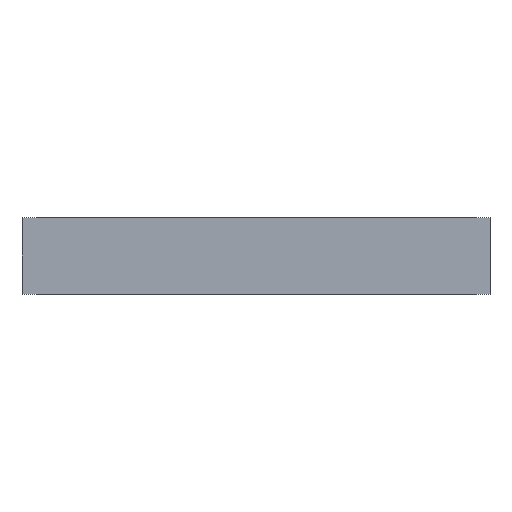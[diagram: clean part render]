
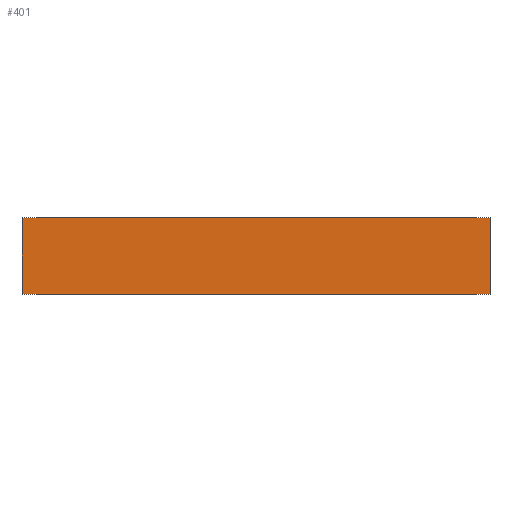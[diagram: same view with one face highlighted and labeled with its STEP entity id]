
A CAD part, front view. The second image highlights one B-rep face of the part: STEP entity #401.
In plain terms, the highlighted planar face has unit normal (0, -1, 0).
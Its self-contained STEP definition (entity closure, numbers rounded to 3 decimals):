
#10 = EDGE_CURVE ( 'NONE', #698, #641, #257, .T. ) ;
#54 = AXIS2_PLACEMENT_3D ( 'NONE', #505, #498, #497 ) ;
#55 = EDGE_CURVE ( 'NONE', #658, #641, #187, .T. ) ;
#57 = EDGE_CURVE ( 'NONE', #685, #698, #179, .T. ) ;
#86 = EDGE_CURVE ( 'NONE', #685, #658, #102, .T. ) ;
#102 = LINE ( 'NONE', #563, #198 ) ;
#135 = FACE_OUTER_BOUND ( 'NONE', #278, .T. ) ;
#176 = VECTOR ( 'NONE', #615, 1000. ) ;
#179 = LINE ( 'NONE', #617, #176 ) ;
#180 = VECTOR ( 'NONE', #621, 1000. ) ;
#187 = LINE ( 'NONE', #623, #180 ) ;
#198 = VECTOR ( 'NONE', #562, 1000. ) ;
#256 = VECTOR ( 'NONE', #416, 1000. ) ;
#257 = LINE ( 'NONE', #425, #256 ) ;
#278 = EDGE_LOOP ( 'NONE', ( #312, #313, #314, #315 ) ) ;
#312 = ORIENTED_EDGE ( 'NONE', *, *, #55, .T. ) ;
#313 = ORIENTED_EDGE ( 'NONE', *, *, #10, .F. ) ;
#314 = ORIENTED_EDGE ( 'NONE', *, *, #57, .F. ) ;
#315 = ORIENTED_EDGE ( 'NONE', *, *, #86, .T. ) ;
#401 = ADVANCED_FACE ( 'NONE', ( #135 ), #508, .F. ) ;
#416 = DIRECTION ( 'NONE',  ( 0., 0., -1. ) ) ;
#425 = CARTESIAN_POINT ( 'NONE',  ( 200., 0., 65. ) ) ;
#454 = CARTESIAN_POINT ( 'NONE',  ( 200., 0., 65. ) ) ;
#459 = CARTESIAN_POINT ( 'NONE',  ( -200., 0., 65. ) ) ;
#470 = CARTESIAN_POINT ( 'NONE',  ( -200., 0., 0. ) ) ;
#477 = CARTESIAN_POINT ( 'NONE',  ( 200., 0., 0. ) ) ;
#497 = DIRECTION ( 'NONE',  ( -1., 0., 0. ) ) ;
#498 = DIRECTION ( 'NONE',  ( 0., 1., 0. ) ) ;
#505 = CARTESIAN_POINT ( 'NONE',  ( -200., 0., 65. ) ) ;
#508 = PLANE ( 'NONE',  #54 ) ;
#562 = DIRECTION ( 'NONE',  ( 0., 0., -1. ) ) ;
#563 = CARTESIAN_POINT ( 'NONE',  ( -200., 0., 65. ) ) ;
#615 = DIRECTION ( 'NONE',  ( 1., 0., 0. ) ) ;
#617 = CARTESIAN_POINT ( 'NONE',  ( -200., 0., 65. ) ) ;
#621 = DIRECTION ( 'NONE',  ( 1., 0., 0. ) ) ;
#623 = CARTESIAN_POINT ( 'NONE',  ( -200., 0., 0. ) ) ;
#641 = VERTEX_POINT ( 'NONE', #477 ) ;
#658 = VERTEX_POINT ( 'NONE', #470 ) ;
#685 = VERTEX_POINT ( 'NONE', #459 ) ;
#698 = VERTEX_POINT ( 'NONE', #454 ) ;
